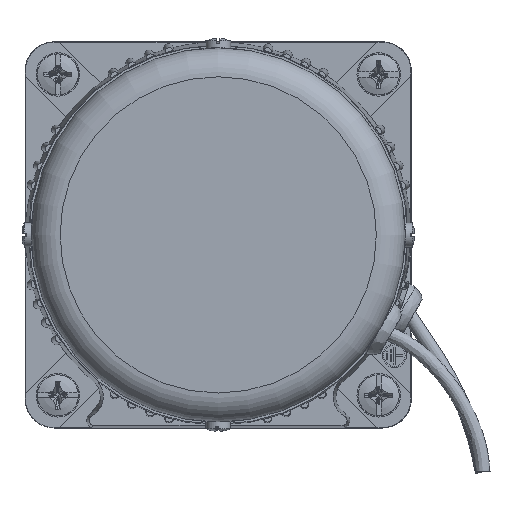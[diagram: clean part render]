
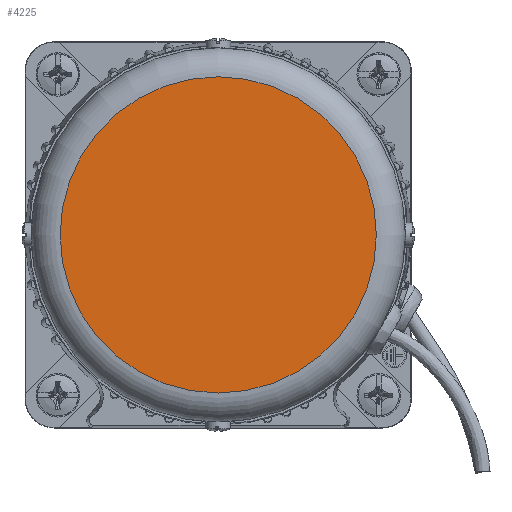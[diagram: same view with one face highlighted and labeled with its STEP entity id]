
A CAD part, left-side view. The second image highlights one B-rep face of the part: STEP entity #4225.
In plain terms, the highlighted planar face has unit normal (-1, 0, 0).
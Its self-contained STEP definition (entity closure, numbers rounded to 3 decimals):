
#4225=ADVANCED_FACE('',(#5375),#4571,.F.);
#4571=PLANE('',#18020);
#5375=FACE_OUTER_BOUND('',#6556,.T.);
#6556=EDGE_LOOP('',(#11218));
#11218=ORIENTED_EDGE('',*,*,#14950,.F.);
#12698=VERTEX_POINT('',#32325);
#14950=EDGE_CURVE('',#12698,#12698,#16777,.T.);
#16777=CIRCLE('',#17945,32.75);
#17945=AXIS2_PLACEMENT_3D('',#32324,#20781,#20782);
#18020=AXIS2_PLACEMENT_3D('',#37471,#20931,#20932);
#20781=DIRECTION('',(1.,0.,0.));
#20782=DIRECTION('',(0.,0.,-1.));
#20931=DIRECTION('',(1.,0.,0.));
#20932=DIRECTION('',(0.,0.,-1.));
#32324=CARTESIAN_POINT('',(-127.5,40.,40.));
#32325=CARTESIAN_POINT('',(-127.5,40.,7.25));
#37471=CARTESIAN_POINT('',(-127.5,40.,40.));
